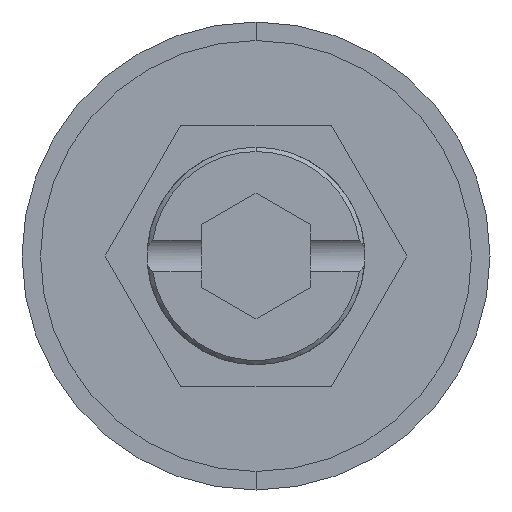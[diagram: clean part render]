
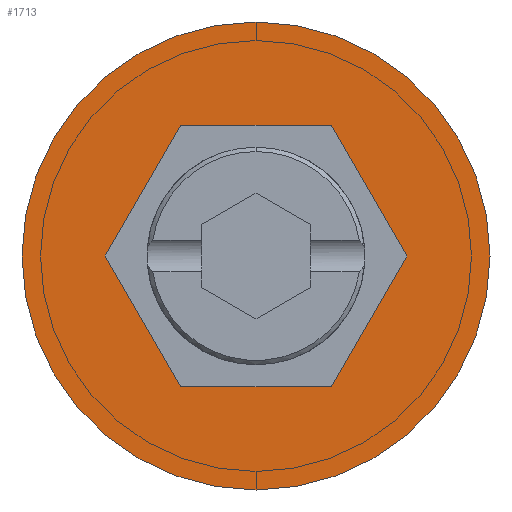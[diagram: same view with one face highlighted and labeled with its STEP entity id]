
A CAD part, front view. The second image highlights one B-rep face of the part: STEP entity #1713.
In plain terms, the highlighted planar face has unit normal (0, -1, 0).
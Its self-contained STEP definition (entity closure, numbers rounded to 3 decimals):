
#12 = LINE ( 'NONE', #1677, #1622 ) ;
#18 = CARTESIAN_POINT ( 'NONE',  ( 3.464, 0., 6. ) ) ;
#128 = DIRECTION ( 'NONE',  ( 0., -1., 0. ) ) ;
#156 = CARTESIAN_POINT ( 'NONE',  ( 0., 0., 0. ) ) ;
#208 = EDGE_CURVE ( 'NONE', #1173, #3435, #1957, .T. ) ;
#342 = CARTESIAN_POINT ( 'NONE',  ( 0., 0., 10.75 ) ) ;
#493 = DIRECTION ( 'NONE',  ( 0., 0., -1. ) ) ;
#506 = CARTESIAN_POINT ( 'NONE',  ( -3.464, 0., -6. ) ) ;
#535 = EDGE_LOOP ( 'NONE', ( #2555, #3072 ) ) ;
#572 = VECTOR ( 'NONE', #2526, 1000. ) ;
#581 = VERTEX_POINT ( 'NONE', #18 ) ;
#627 = ORIENTED_EDGE ( 'NONE', *, *, #1530, .F. ) ;
#698 = CARTESIAN_POINT ( 'NONE',  ( 3.464, 0., -6. ) ) ;
#753 = LINE ( 'NONE', #2738, #4035 ) ;
#787 = EDGE_LOOP ( 'NONE', ( #1663, #3329, #627, #3773, #2045, #1859 ) ) ;
#866 = EDGE_CURVE ( 'NONE', #3979, #2114, #3938, .T. ) ;
#877 = DIRECTION ( 'NONE',  ( 0., 0., -1. ) ) ;
#923 = CARTESIAN_POINT ( 'NONE',  ( 0., 0., 0. ) ) ;
#995 = LINE ( 'NONE', #3947, #2637 ) ;
#1040 = CARTESIAN_POINT ( 'NONE',  ( -6.928, 0., 0. ) ) ;
#1173 = VERTEX_POINT ( 'NONE', #4071 ) ;
#1189 = FACE_OUTER_BOUND ( 'NONE', #535, .T. ) ;
#1250 = CARTESIAN_POINT ( 'NONE',  ( 6.928, 0., 0. ) ) ;
#1299 = AXIS2_PLACEMENT_3D ( 'NONE', #156, #2395, #493 ) ;
#1448 = EDGE_CURVE ( 'NONE', #2114, #581, #995, .T. ) ;
#1530 = EDGE_CURVE ( 'NONE', #2913, #3848, #753, .T. ) ;
#1604 = VECTOR ( 'NONE', #3992, 1000. ) ;
#1622 = VECTOR ( 'NONE', #1999, 1000. ) ;
#1663 = ORIENTED_EDGE ( 'NONE', *, *, #4039, .F. ) ;
#1664 = DIRECTION ( 'NONE',  ( 0.5, 0., -0.866 ) ) ;
#1677 = CARTESIAN_POINT ( 'NONE',  ( 3.464, 0., 6. ) ) ;
#1713 = ADVANCED_FACE ( 'NONE', ( #2885, #1189 ), #2038, .T. ) ;
#1762 = CARTESIAN_POINT ( 'NONE',  ( -3.464, 0., -6. ) ) ;
#1774 = CARTESIAN_POINT ( 'NONE',  ( -3.464, 0., 6. ) ) ;
#1859 = ORIENTED_EDGE ( 'NONE', *, *, #866, .F. ) ;
#1957 = CIRCLE ( 'NONE', #2120, 10.75 ) ;
#1999 = DIRECTION ( 'NONE',  ( -1., 0., 0. ) ) ;
#2038 = PLANE ( 'NONE',  #3168 ) ;
#2045 = ORIENTED_EDGE ( 'NONE', *, *, #1448, .F. ) ;
#2114 = VERTEX_POINT ( 'NONE', #1250 ) ;
#2120 = AXIS2_PLACEMENT_3D ( 'NONE', #923, #3124, #877 ) ;
#2255 = EDGE_CURVE ( 'NONE', #3848, #4028, #2256, .T. ) ;
#2256 = LINE ( 'NONE', #2922, #2990 ) ;
#2369 = DIRECTION ( 'NONE',  ( 0., 0., -1. ) ) ;
#2395 = DIRECTION ( 'NONE',  ( 0., -1., 0. ) ) ;
#2526 = DIRECTION ( 'NONE',  ( 0.5, 0., 0.866 ) ) ;
#2555 = ORIENTED_EDGE ( 'NONE', *, *, #208, .T. ) ;
#2623 = DIRECTION ( 'NONE',  ( -0.5, 0., -0.866 ) ) ;
#2637 = VECTOR ( 'NONE', #3977, 1000. ) ;
#2738 = CARTESIAN_POINT ( 'NONE',  ( -3.464, 0., 6. ) ) ;
#2771 = EDGE_CURVE ( 'NONE', #3435, #1173, #3665, .T. ) ;
#2885 = FACE_BOUND ( 'NONE', #787, .T. ) ;
#2913 = VERTEX_POINT ( 'NONE', #1774 ) ;
#2922 = CARTESIAN_POINT ( 'NONE',  ( -6.928, 0., 0. ) ) ;
#2978 = CARTESIAN_POINT ( 'NONE',  ( 0., 0., 0. ) ) ;
#2990 = VECTOR ( 'NONE', #1664, 1000. ) ;
#3072 = ORIENTED_EDGE ( 'NONE', *, *, #2771, .T. ) ;
#3124 = DIRECTION ( 'NONE',  ( 0., -1., 0. ) ) ;
#3168 = AXIS2_PLACEMENT_3D ( 'NONE', #2978, #128, #2369 ) ;
#3191 = LINE ( 'NONE', #506, #1604 ) ;
#3329 = ORIENTED_EDGE ( 'NONE', *, *, #2255, .F. ) ;
#3353 = CARTESIAN_POINT ( 'NONE',  ( 3.464, 0., -6. ) ) ;
#3435 = VERTEX_POINT ( 'NONE', #342 ) ;
#3454 = EDGE_CURVE ( 'NONE', #581, #2913, #12, .T. ) ;
#3665 = CIRCLE ( 'NONE', #1299, 10.75 ) ;
#3773 = ORIENTED_EDGE ( 'NONE', *, *, #3454, .F. ) ;
#3848 = VERTEX_POINT ( 'NONE', #1040 ) ;
#3938 = LINE ( 'NONE', #698, #572 ) ;
#3947 = CARTESIAN_POINT ( 'NONE',  ( 6.928, 0., 0. ) ) ;
#3977 = DIRECTION ( 'NONE',  ( -0.5, 0., 0.866 ) ) ;
#3979 = VERTEX_POINT ( 'NONE', #3353 ) ;
#3992 = DIRECTION ( 'NONE',  ( 1., 0., 0. ) ) ;
#4028 = VERTEX_POINT ( 'NONE', #1762 ) ;
#4035 = VECTOR ( 'NONE', #2623, 1000. ) ;
#4039 = EDGE_CURVE ( 'NONE', #4028, #3979, #3191, .T. ) ;
#4071 = CARTESIAN_POINT ( 'NONE',  ( 0., 0., -10.75 ) ) ;
